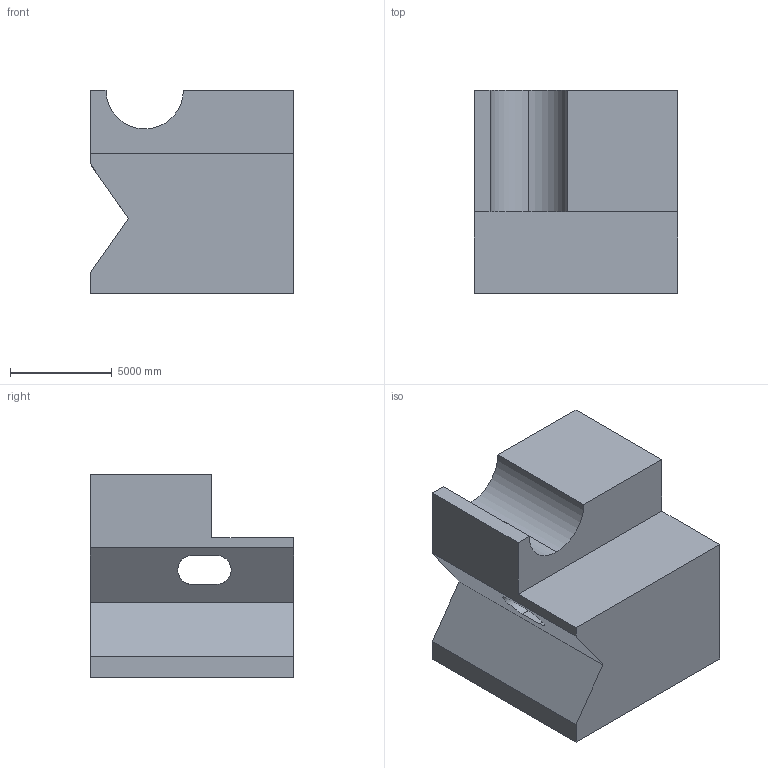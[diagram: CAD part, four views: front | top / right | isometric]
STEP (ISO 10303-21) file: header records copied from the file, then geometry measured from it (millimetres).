
FILE_DESCRIPTION (( 'STEP AP203' ), '1' );
FILE_NAME ('1391.STEP', '2022-08-18T14:12:14', ( 'user' ), ( '' ), 'SwSTEP 2.0', 'SolidWorks 2021', '' );
FILE_SCHEMA (( 'CONFIG_CONTROL_DESIGN' ));
Length unit declared in the file: centimetre
Products named in the file (1): 1391
Bounding box: 10000 x 10000 x 10000 mm (x, y, z)
Volume: 760305798552.3 mm3; surface area: 634788276.5 mm2
Topology: 1 solids, 1 shells, 18 faces, 48 edges, 32 vertices
Faces by surface type: plane 14, cylinder 4
Entity records: 639 total; most frequent: CARTESIAN_POINT 105, ORIENTED_EDGE 96, DIRECTION 90, EDGE_CURVE 48, LINE 40, VECTOR 40, VERTEX_POINT 32, AXIS2_PLACEMENT_3D 25
